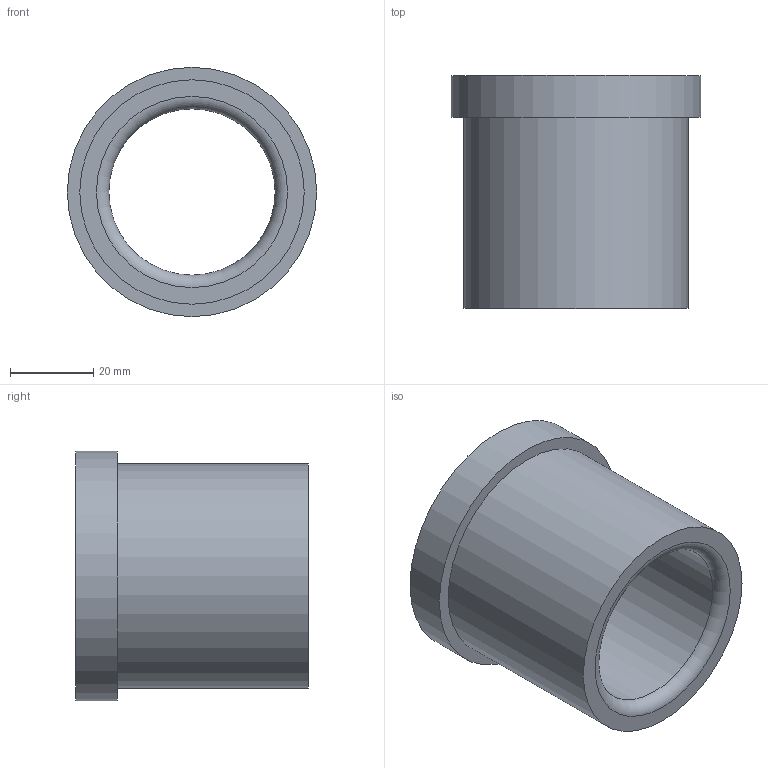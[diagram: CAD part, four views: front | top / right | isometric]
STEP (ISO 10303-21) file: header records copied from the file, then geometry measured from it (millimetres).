
FILE_DESCRIPTION(/* description */ ('STEP AP214'),/* implementation_level */ '2;1');
FILE_NAME(/* name */ '03_12_17951',/* time_stamp */ '2023-06-15T11:35:42+02:00',/* author */ ('License CC BY-ND 4.0'),/* organization */ ('CADENAS'),/* preprocessor_version */ 'ST-DEVELOPER v19.3',/* originating_system */ 'PARTsolutions',/* authorisation */ ' ');
FILE_SCHEMA (('AUTOMOTIVE_DESIGN {1 0 10303 214 3 1 1}'));
Length unit declared in the file: millimetre
Products named in the file (1): VA_Bushing_17951
Bounding box: 60 x 56 x 60 mm (x, y, z)
Volume: 62322.1 mm3; surface area: 19570.5 mm2
Topology: 1 solids, 1 shells, 10 faces, 16 edges, 10 vertices
Faces by surface type: cylinder 4, plane 4, torus 2
Full cylindrical faces by diameter (mm): 40 x1, 40.6 x1, 54 x1, 60 x1
Entity records: 302 total; most frequent: DIRECTION 42, CARTESIAN_POINT 31, AXIS2_PLACEMENT_3D 21, ORIENTED_EDGE 20, EDGE_LOOP 20, FACE_BOUND 20, EDGE_CURVE 10, VERTEX_POINT 10
